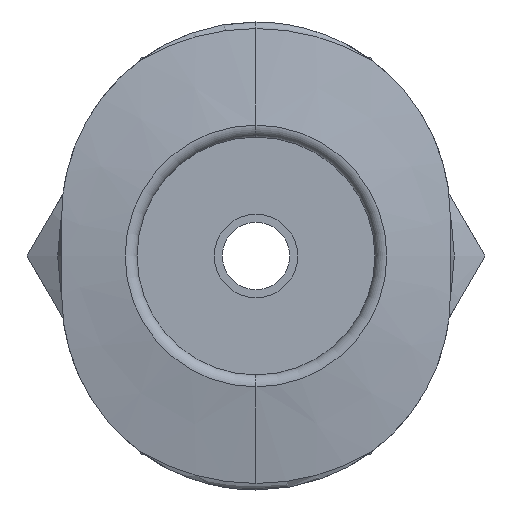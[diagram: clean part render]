
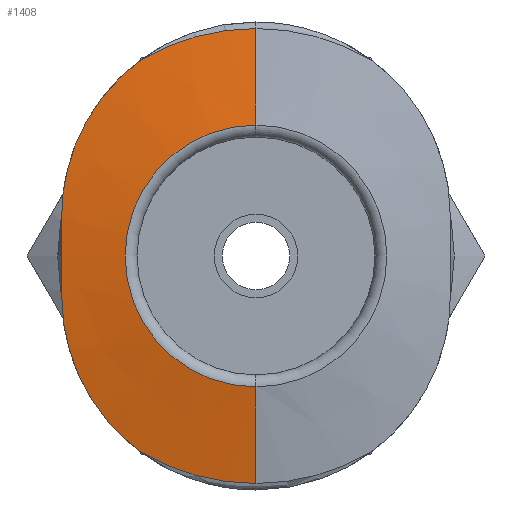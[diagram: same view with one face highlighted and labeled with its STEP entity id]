
A CAD part, left-side view. The second image highlights one B-rep face of the part: STEP entity #1408.
In plain terms, the highlighted conical face has half-angle 80 degrees and reference radius 5.735 mm.
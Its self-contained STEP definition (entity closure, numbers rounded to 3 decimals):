
#44 = ORIENTED_EDGE ( 'NONE', *, *, #1272, .T. ) ;
#93 = CARTESIAN_POINT ( 'NONE',  ( -14.3, 0., 3.3 ) ) ;
#171 = LINE ( 'NONE', #176, #1743 ) ;
#173 = CARTESIAN_POINT ( 'NONE',  ( -13.871, 0., -5.735 ) ) ;
#176 = CARTESIAN_POINT ( 'NONE',  ( -13.871, 0., 5.735 ) ) ;
#181 = B_SPLINE_CURVE_WITH_KNOTS ( 'NONE', 3,
 ( #1090, #1648, #1580, #1784 ),
 .UNSPECIFIED., .F., .F.,
 ( 4, 4 ),
 ( 0.002, 0.004 ),
 .UNSPECIFIED. ) ;
#183 = CARTESIAN_POINT ( 'NONE',  ( -13.987, 4.9, -1.384 ) ) ;
#206 = VERTEX_POINT ( 'NONE', #475 ) ;
#245 = CARTESIAN_POINT ( 'NONE',  ( -13.949, 4.668, 2.503 ) ) ;
#254 = DIRECTION ( 'NONE',  ( 0., 0., 1. ) ) ;
#283 = CARTESIAN_POINT ( 'NONE',  ( -14., 4.9, 1. ) ) ;
#309 = ORIENTED_EDGE ( 'NONE', *, *, #808, .T. ) ;
#321 = EDGE_CURVE ( 'NONE', #837, #896, #861, .T. ) ;
#332 = B_SPLINE_CURVE_WITH_KNOTS ( 'NONE', 3,
 ( #1294, #183, #1539, #1842, #561, #640, #1598, #1634, #540, #1266 ),
 .UNSPECIFIED., .F., .F.,
 ( 4, 2, 2, 2, 4 ),
 ( 0., 0.001, 0.002, 0.003, 0.005 ),
 .UNSPECIFIED. ) ;
#333 = CARTESIAN_POINT ( 'NONE',  ( -13.871, 0., 0. ) ) ;
#394 = VECTOR ( 'NONE', #2008, 1000. ) ;
#436 = DIRECTION ( 'NONE',  ( 0., 0., -1. ) ) ;
#456 = CARTESIAN_POINT ( 'NONE',  ( -13.871, 0., -5.735 ) ) ;
#475 = CARTESIAN_POINT ( 'NONE',  ( -13.871, 2.915, -4.939 ) ) ;
#496 = CARTESIAN_POINT ( 'NONE',  ( -13.9, 3.87, 4.012 ) ) ;
#498 = CARTESIAN_POINT ( 'NONE',  ( -14.3, 0., -3.3 ) ) ;
#522 = CARTESIAN_POINT ( 'NONE',  ( -13.871, 0., 0. ) ) ;
#540 = CARTESIAN_POINT ( 'NONE',  ( -13.878, 3.224, -4.71 ) ) ;
#551 = CARTESIAN_POINT ( 'NONE',  ( -13.878, 3.224, 4.71 ) ) ;
#561 = CARTESIAN_POINT ( 'NONE',  ( -13.937, 4.547, -2.865 ) ) ;
#597 = CARTESIAN_POINT ( 'NONE',  ( -13.955, 4.723, 2.318 ) ) ;
#632 = DIRECTION ( 'NONE',  ( 0.174, 0., 0.985 ) ) ;
#640 = CARTESIAN_POINT ( 'NONE',  ( -13.915, 4.206, -3.542 ) ) ;
#699 = DIRECTION ( 'NONE',  ( 0., 0., 1. ) ) ;
#715 = CONICAL_SURFACE ( 'NONE', #1732, 5.735, 1.396 ) ;
#722 = VERTEX_POINT ( 'NONE', #173 ) ;
#725 = ORIENTED_EDGE ( 'NONE', *, *, #997, .T. ) ;
#767 = VERTEX_POINT ( 'NONE', #498 ) ;
#808 = EDGE_CURVE ( 'NONE', #206, #722, #1333, .T. ) ;
#810 = CARTESIAN_POINT ( 'NONE',  ( -13.886, 3.501, 4.449 ) ) ;
#837 = VERTEX_POINT ( 'NONE', #1430 ) ;
#861 = B_SPLINE_CURVE_WITH_KNOTS ( 'NONE', 3,
 ( #1766, #551, #810, #496, #1758, #2004, #1184, #1297, #245, #597, #1419, #1061, #1637 ),
 .UNSPECIFIED., .F., .F.,
 ( 4, 2, 2, 1, 2, 2, 4 ),
 ( 0., 0.001, 0.002, 0.002, 0.003, 0.003, 0.005 ),
 .UNSPECIFIED. ) ;
#870 = DIRECTION ( 'NONE',  ( -1., 0., 0. ) ) ;
#896 = VERTEX_POINT ( 'NONE', #283 ) ;
#935 = CARTESIAN_POINT ( 'NONE',  ( -13.871, 0., 5.735 ) ) ;
#983 = ORIENTED_EDGE ( 'NONE', *, *, #321, .T. ) ;
#997 = EDGE_CURVE ( 'NONE', #896, #1323, #181, .T. ) ;
#1061 = CARTESIAN_POINT ( 'NONE',  ( -13.987, 4.9, 1.384 ) ) ;
#1090 = CARTESIAN_POINT ( 'NONE',  ( -14., 4.9, 1. ) ) ;
#1106 = EDGE_CURVE ( 'NONE', #1323, #206, #332, .T. ) ;
#1136 = CIRCLE ( 'NONE', #1641, 3.3 ) ;
#1184 = CARTESIAN_POINT ( 'NONE',  ( -13.925, 4.386, 3.21 ) ) ;
#1219 = CARTESIAN_POINT ( 'NONE',  ( -13.871, 0., 0. ) ) ;
#1231 = AXIS2_PLACEMENT_3D ( 'NONE', #522, #1911, #1522 ) ;
#1239 = CARTESIAN_POINT ( 'NONE',  ( -14.3, 0., 0. ) ) ;
#1266 = CARTESIAN_POINT ( 'NONE',  ( -13.871, 2.915, -4.939 ) ) ;
#1272 = EDGE_CURVE ( 'NONE', #1927, #1517, #171, .T. ) ;
#1294 = CARTESIAN_POINT ( 'NONE',  ( -14., 4.9, -1. ) ) ;
#1297 = CARTESIAN_POINT ( 'NONE',  ( -13.937, 4.537, 2.862 ) ) ;
#1308 = ORIENTED_EDGE ( 'NONE', *, *, #1900, .F. ) ;
#1323 = VERTEX_POINT ( 'NONE', #1470 ) ;
#1333 = CIRCLE ( 'NONE', #1847, 5.735 ) ;
#1363 = FACE_OUTER_BOUND ( 'NONE', #1945, .T. ) ;
#1408 = ADVANCED_FACE ( 'CONE_15', ( #1363 ), #715, .T. ) ;
#1419 = CARTESIAN_POINT ( 'NONE',  ( -13.974, 4.855, 1.762 ) ) ;
#1430 = CARTESIAN_POINT ( 'NONE',  ( -13.871, 2.915, 4.939 ) ) ;
#1470 = CARTESIAN_POINT ( 'NONE',  ( -14., 4.9, -1. ) ) ;
#1517 = VERTEX_POINT ( 'NONE', #935 ) ;
#1522 = DIRECTION ( 'NONE',  ( 0., 0., 1. ) ) ;
#1535 = DIRECTION ( 'NONE',  ( 1., 0., 0. ) ) ;
#1539 = CARTESIAN_POINT ( 'NONE',  ( -13.974, 4.855, -1.761 ) ) ;
#1580 = CARTESIAN_POINT ( 'NONE',  ( -14.024, 4.9, -0.333 ) ) ;
#1585 = EDGE_CURVE ( 'NONE', #1517, #837, #1783, .T. ) ;
#1598 = CARTESIAN_POINT ( 'NONE',  ( -13.904, 3.996, -3.862 ) ) ;
#1634 = CARTESIAN_POINT ( 'NONE',  ( -13.886, 3.502, -4.449 ) ) ;
#1635 = ORIENTED_EDGE ( 'NONE', *, *, #1106, .T. ) ;
#1637 = CARTESIAN_POINT ( 'NONE',  ( -14., 4.9, 1. ) ) ;
#1641 = AXIS2_PLACEMENT_3D ( 'NONE', #1239, #1752, #254 ) ;
#1648 = CARTESIAN_POINT ( 'NONE',  ( -14.024, 4.9, 0.334 ) ) ;
#1732 = AXIS2_PLACEMENT_3D ( 'NONE', #333, #1535, #436 ) ;
#1743 = VECTOR ( 'NONE', #632, 1000. ) ;
#1752 = DIRECTION ( 'NONE',  ( -1., 0., 0. ) ) ;
#1758 = CARTESIAN_POINT ( 'NONE',  ( -13.904, 3.985, 3.857 ) ) ;
#1766 = CARTESIAN_POINT ( 'NONE',  ( -13.871, 2.915, 4.939 ) ) ;
#1771 = ORIENTED_EDGE ( 'NONE', *, *, #1585, .T. ) ;
#1782 = LINE ( 'NONE', #456, #394 ) ;
#1783 = CIRCLE ( 'NONE', #1231, 5.735 ) ;
#1784 = CARTESIAN_POINT ( 'NONE',  ( -14., 4.9, -1. ) ) ;
#1834 = ORIENTED_EDGE ( 'NONE', *, *, #1989, .F. ) ;
#1842 = CARTESIAN_POINT ( 'NONE',  ( -13.949, 4.68, -2.5 ) ) ;
#1847 = AXIS2_PLACEMENT_3D ( 'NONE', #1219, #870, #699 ) ;
#1900 = EDGE_CURVE ( 'NONE', #767, #722, #1782, .T. ) ;
#1911 = DIRECTION ( 'NONE',  ( -1., 0., 0. ) ) ;
#1927 = VERTEX_POINT ( 'NONE', #93 ) ;
#1945 = EDGE_LOOP ( 'NONE', ( #1834, #44, #1771, #983, #725, #1635, #309, #1308 ) ) ;
#1989 = EDGE_CURVE ( 'NONE', #1927, #767, #1136, .T. ) ;
#2004 = CARTESIAN_POINT ( 'NONE',  ( -13.915, 4.196, 3.539 ) ) ;
#2008 = DIRECTION ( 'NONE',  ( 0.174, 0., -0.985 ) ) ;
